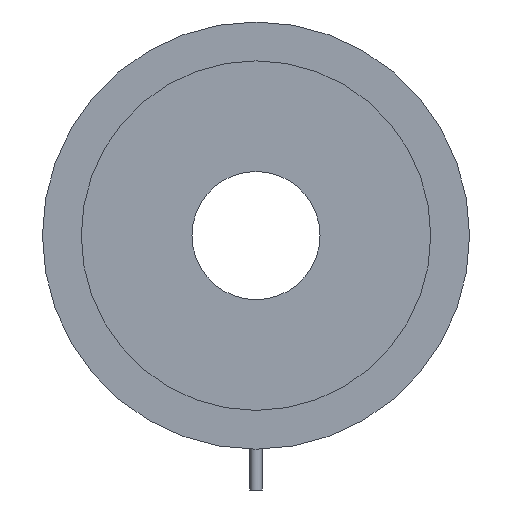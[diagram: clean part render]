
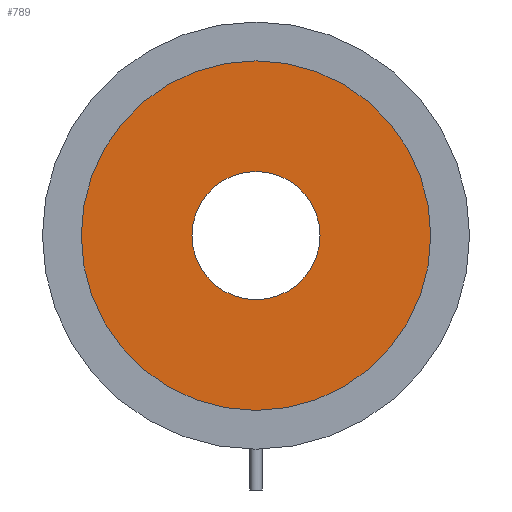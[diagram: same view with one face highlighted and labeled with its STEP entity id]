
A CAD part, front view. The second image highlights one B-rep face of the part: STEP entity #789.
In plain terms, the highlighted planar face has unit normal (0, -1, 0).
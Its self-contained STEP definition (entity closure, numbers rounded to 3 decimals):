
#22=FACE_BOUND('',#113,.T.);
#43=PLANE('',#868);
#65=FACE_OUTER_BOUND('',#112,.T.);
#112=EDGE_LOOP('',(#525,#526));
#113=EDGE_LOOP('',(#527,#528));
#223=CIRCLE('',#852,16.5);
#224=CIRCLE('',#853,16.5);
#227=CIRCLE('',#857,45.);
#228=CIRCLE('',#858,45.);
#305=VERTEX_POINT('',#1262);
#306=VERTEX_POINT('',#1263);
#309=VERTEX_POINT('',#1272);
#310=VERTEX_POINT('',#1273);
#391=EDGE_CURVE('',#305,#306,#223,.T.);
#392=EDGE_CURVE('',#306,#305,#224,.T.);
#396=EDGE_CURVE('',#309,#310,#227,.T.);
#397=EDGE_CURVE('',#310,#309,#228,.T.);
#525=ORIENTED_EDGE('',*,*,#396,.T.);
#526=ORIENTED_EDGE('',*,*,#397,.T.);
#527=ORIENTED_EDGE('',*,*,#391,.T.);
#528=ORIENTED_EDGE('',*,*,#392,.T.);
#789=ADVANCED_FACE('',(#65,#22),#43,.F.);
#852=AXIS2_PLACEMENT_3D('',#1264,#982,#983);
#853=AXIS2_PLACEMENT_3D('',#1265,#984,#985);
#857=AXIS2_PLACEMENT_3D('',#1274,#993,#994);
#858=AXIS2_PLACEMENT_3D('',#1275,#995,#996);
#868=AXIS2_PLACEMENT_3D('',#1293,#1017,#1018);
#982=DIRECTION('center_axis',(0.,1.,0.));
#983=DIRECTION('ref_axis',(0.,0.,
-1.));
#984=DIRECTION('center_axis',(0.,1.,0.));
#985=DIRECTION('ref_axis',(0.,0.,
-1.));
#993=DIRECTION('center_axis',(0.,-1.,0.));
#994=DIRECTION('ref_axis',(0.,0.,1.));
#995=DIRECTION('center_axis',(0.,-1.,0.));
#996=DIRECTION('ref_axis',(0.,0.,1.));
#1017=DIRECTION('center_axis',(0.,1.,0.));
#1018=DIRECTION('ref_axis',(0.,0.,
-1.));
#1262=CARTESIAN_POINT('',(0.,-16.,-16.5));
#1263=CARTESIAN_POINT('',(0.,-16.,16.5));
#1264=CARTESIAN_POINT('Origin',(0.,-16.,
0.));
#1265=CARTESIAN_POINT('Origin',(0.,-16.,
0.));
#1272=CARTESIAN_POINT('',(0.,-16.,45.));
#1273=CARTESIAN_POINT('',(0.,-16.,-45.));
#1274=CARTESIAN_POINT('Origin',(0.,-16.,
0.));
#1275=CARTESIAN_POINT('Origin',(0.,-16.,
0.));
#1293=CARTESIAN_POINT('Origin',(0.,-16.,
0.));
